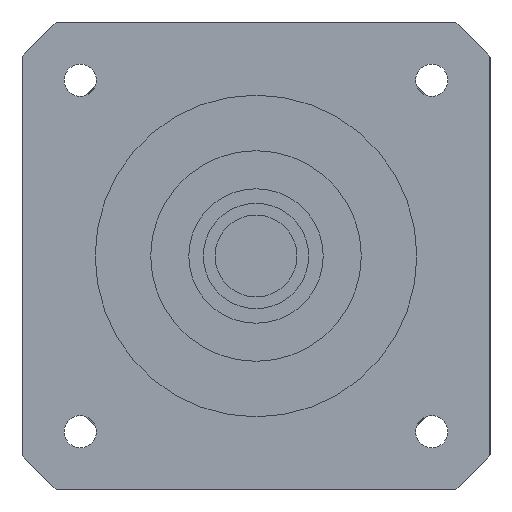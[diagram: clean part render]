
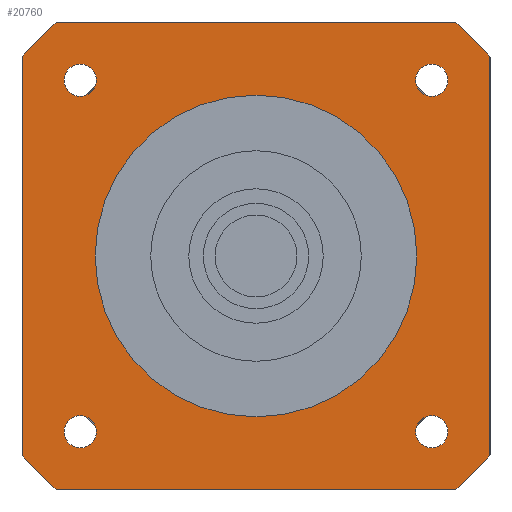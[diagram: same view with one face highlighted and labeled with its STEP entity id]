
A CAD part, left-side view. The second image highlights one B-rep face of the part: STEP entity #20760.
In plain terms, the highlighted planar face has unit normal (-1, 0, 0) as drawn and (0, 0, -1) by its records, which use the part's own axes.
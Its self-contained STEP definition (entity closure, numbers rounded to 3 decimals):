
#19130=CARTESIAN_POINT('',(30.052,-27.302,-42.));
#19140=VERTEX_POINT('',#19130);
#19220=CARTESIAN_POINT('',(30.052,-32.802,-42.));
#19230=VERTEX_POINT('',#19220);
#19260=CARTESIAN_POINT('',(30.052,-30.052,-42.));
#19270=DIRECTION('',(0.,0.,1.));
#19280=DIRECTION('',(0.,1.,0.));
#19290=AXIS2_PLACEMENT_3D('',#19260,#19270,#19280);
#19300=CIRCLE('',#19290,2.75);
#19310=EDGE_CURVE('',#19230,#19140,#19300,.T.);
#19360=CARTESIAN_POINT('',(40.,-40.,-42.));
#19370=DIRECTION('',(0.,0.,1.));
#19380=DIRECTION('',(0.,1.,0.));
#19390=AXIS2_PLACEMENT_3D('',#19360,#19370,#19380);
#19400=PLANE('',#19390);
#19410=CARTESIAN_POINT('',(-30.052,-30.052,-42.));
#19420=DIRECTION('',(0.,0.,1.));
#19430=DIRECTION('',(0.,1.,0.));
#19440=AXIS2_PLACEMENT_3D('',#19410,#19420,#19430);
#19450=CIRCLE('',#19440,2.75);
#19460=CARTESIAN_POINT('',(-30.052,-27.302,-42.));
#19470=VERTEX_POINT('',#19460);
#19480=CARTESIAN_POINT('',(-30.052,-32.802,-42.));
#19490=VERTEX_POINT('',#19480);
#19500=EDGE_CURVE('',#19470,#19490,#19450,.T.);
#19510=ORIENTED_EDGE('',*,*,#19500,.T.);
#19520=EDGE_CURVE('',#19490,#19470,#19450,.T.);
#19530=ORIENTED_EDGE('',*,*,#19520,.T.);
#19540=EDGE_LOOP('',(#19530,#19510));
#19550=FACE_BOUND('',#19540,.T.);
#19560=CARTESIAN_POINT('',(30.052,30.052,-42.));
#19570=DIRECTION('',(0.,0.,1.));
#19580=DIRECTION('',(0.,1.,0.));
#19590=AXIS2_PLACEMENT_3D('',#19560,#19570,#19580);
#19600=CIRCLE('',#19590,2.75);
#19610=CARTESIAN_POINT('',(30.052,32.802,-42.));
#19620=VERTEX_POINT('',#19610);
#19630=CARTESIAN_POINT('',(30.052,27.302,-42.));
#19640=VERTEX_POINT('',#19630);
#19650=EDGE_CURVE('',#19620,#19640,#19600,.T.);
#19660=ORIENTED_EDGE('',*,*,#19650,.T.);
#19670=EDGE_CURVE('',#19640,#19620,#19600,.T.);
#19680=ORIENTED_EDGE('',*,*,#19670,.T.);
#19690=EDGE_LOOP('',(#19680,#19660));
#19700=FACE_BOUND('',#19690,.T.);
#19710=CARTESIAN_POINT('',(-30.052,30.052,-42.));
#19720=DIRECTION('',(0.,0.,1.));
#19730=DIRECTION('',(0.,1.,0.));
#19740=AXIS2_PLACEMENT_3D('',#19710,#19720,#19730);
#19750=CIRCLE('',#19740,2.75);
#19760=CARTESIAN_POINT('',(-30.052,32.802,-42.));
#19770=VERTEX_POINT('',#19760);
#19780=CARTESIAN_POINT('',(-30.052,27.302,-42.));
#19790=VERTEX_POINT('',#19780);
#19800=EDGE_CURVE('',#19770,#19790,#19750,.T.);
#19810=ORIENTED_EDGE('',*,*,#19800,.T.);
#19820=EDGE_CURVE('',#19790,#19770,#19750,.T.);
#19830=ORIENTED_EDGE('',*,*,#19820,.T.);
#19840=EDGE_LOOP('',(#19830,#19810));
#19850=FACE_BOUND('',#19840,.T.);
#19860=CARTESIAN_POINT('',(0.,0.,
-42.));
#19870=DIRECTION('',(0.,0.,1.));
#19880=DIRECTION('',(0.,-1.,0.));
#19890=AXIS2_PLACEMENT_3D('',#19860,#19870,#19880);
#19900=CIRCLE('',#19890,27.5);
#19910=CARTESIAN_POINT('',(0.,-27.5,-42.));
#19920=VERTEX_POINT('',#19910);
#19930=CARTESIAN_POINT('',(0.,27.5,-42.));
#19940=VERTEX_POINT('',#19930);
#19950=EDGE_CURVE('',#19920,#19940,#19900,.T.);
#19960=ORIENTED_EDGE('',*,*,#19950,.T.);
#19970=EDGE_CURVE('',#19940,#19920,#19900,.T.);
#19980=ORIENTED_EDGE('',*,*,#19970,.T.);
#19990=EDGE_LOOP('',(#19980,#19960));
#20000=FACE_BOUND('',#19990,.T.);
#20010=EDGE_CURVE('',#19140,#19230,#19300,.T.);
#20020=ORIENTED_EDGE('',*,*,#20010,.T.);
#20030=ORIENTED_EDGE('',*,*,#19310,.T.);
#20040=EDGE_LOOP('',(#20030,#20020));
#20050=FACE_BOUND('',#20040,.T.);
#20060=CARTESIAN_POINT('',(0.,0.,
-42.));
#20070=DIRECTION('',(0.,0.,1.));
#20080=DIRECTION('',(0.,1.,0.));
#20090=AXIS2_PLACEMENT_3D('',#20060,#20070,#20080);
#20100=CIRCLE('',#20090,52.5);
#20110=CARTESIAN_POINT('',(-34.004,40.,-42.));
#20120=VERTEX_POINT('',#20110);
#20130=CARTESIAN_POINT('',(-40.,34.004,-42.));
#20140=VERTEX_POINT('',#20130);
#20150=EDGE_CURVE('',#20120,#20140,#20100,.T.);
#20160=ORIENTED_EDGE('',*,*,#20150,.F.);
#20170=CARTESIAN_POINT('',(-40.,40.,-42.));
#20180=DIRECTION('',(0.,-1.,0.));
#20190=VECTOR('',#20180,1000.);
#20200=LINE('',#20170,#20190);
#20210=CARTESIAN_POINT('',(-40.,-34.004,-42.));
#20220=VERTEX_POINT('',#20210);
#20230=EDGE_CURVE('',#20140,#20220,#20200,.T.);
#20240=ORIENTED_EDGE('',*,*,#20230,.F.);
#20250=CARTESIAN_POINT('',(0.,0.,
-42.));
#20260=DIRECTION('',(0.,0.,1.));
#20270=DIRECTION('',(0.,1.,0.));
#20280=AXIS2_PLACEMENT_3D('',#20250,#20260,#20270);
#20290=CIRCLE('',#20280,52.5);
#20300=CARTESIAN_POINT('',(-34.004,-40.,-42.));
#20310=VERTEX_POINT('',#20300);
#20320=EDGE_CURVE('',#20220,#20310,#20290,.T.);
#20330=ORIENTED_EDGE('',*,*,#20320,.F.);
#20340=CARTESIAN_POINT('',(-40.,-40.,-42.));
#20350=DIRECTION('',(1.,0.,0.));
#20360=VECTOR('',#20350,1000.);
#20370=LINE('',#20340,#20360);
#20380=CARTESIAN_POINT('',(34.004,-40.,-42.));
#20390=VERTEX_POINT('',#20380);
#20400=EDGE_CURVE('',#20310,#20390,#20370,.T.);
#20410=ORIENTED_EDGE('',*,*,#20400,.F.);
#20420=CARTESIAN_POINT('',(0.,0.,
-42.));
#20430=DIRECTION('',(0.,0.,1.));
#20440=DIRECTION('',(0.,1.,0.));
#20450=AXIS2_PLACEMENT_3D('',#20420,#20430,#20440);
#20460=CIRCLE('',#20450,52.5);
#20470=CARTESIAN_POINT('',(40.,-34.004,-42.));
#20480=VERTEX_POINT('',#20470);
#20490=EDGE_CURVE('',#20390,#20480,#20460,.T.);
#20500=ORIENTED_EDGE('',*,*,#20490,.F.);
#20510=CARTESIAN_POINT('',(40.,-40.,-42.));
#20520=DIRECTION('',(0.,1.,0.));
#20530=VECTOR('',#20520,1000.);
#20540=LINE('',#20510,#20530);
#20550=CARTESIAN_POINT('',(40.,34.004,-42.));
#20560=VERTEX_POINT('',#20550);
#20570=EDGE_CURVE('',#20480,#20560,#20540,.T.);
#20580=ORIENTED_EDGE('',*,*,#20570,.F.);
#20590=CARTESIAN_POINT('',(0.,0.,
-42.));
#20600=DIRECTION('',(0.,0.,1.));
#20610=DIRECTION('',(0.,1.,0.));
#20620=AXIS2_PLACEMENT_3D('',#20590,#20600,#20610);
#20630=CIRCLE('',#20620,52.5);
#20640=CARTESIAN_POINT('',(34.004,40.,-42.));
#20650=VERTEX_POINT('',#20640);
#20660=EDGE_CURVE('',#20560,#20650,#20630,.T.);
#20670=ORIENTED_EDGE('',*,*,#20660,.F.);
#20680=CARTESIAN_POINT('',(40.,40.,-42.));
#20690=DIRECTION('',(-1.,0.,0.));
#20700=VECTOR('',#20690,1000.);
#20710=LINE('',#20680,#20700);
#20720=EDGE_CURVE('',#20650,#20120,#20710,.T.);
#20730=ORIENTED_EDGE('',*,*,#20720,.F.);
#20740=EDGE_LOOP('',(#20730,#20670,#20580,#20500,#20410,#20330,#20240,
#20160));
#20750=FACE_OUTER_BOUND('',#20740,.T.);
#20760=ADVANCED_FACE('',(#19550,#19700,#19850,#20000,#20050,#20750),
#19400,.F.);
